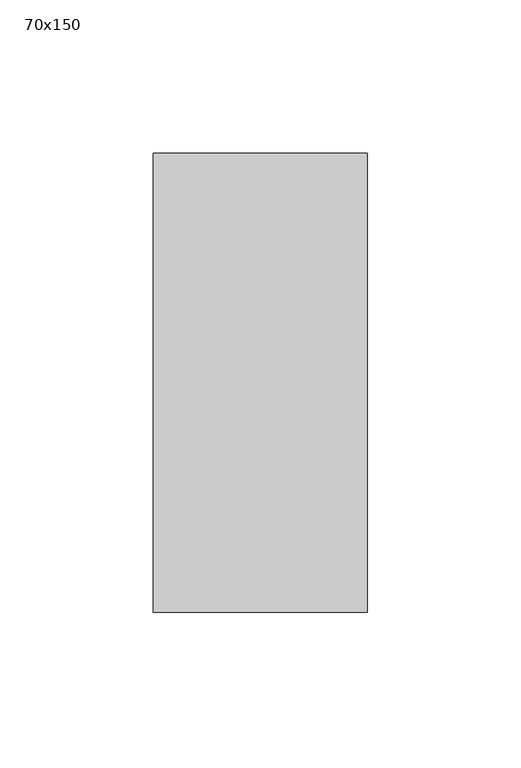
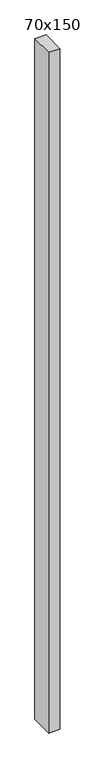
"""IFC4 building model written with IfcOpenShell, lengths in millimetres: member geometry, 長方形のマリオン : 70x150."""

from ifc_helpers import new_model, si_unit, frame, origin, place, context, project, spatial, polyline, outline, extrude, source, transform, mapped, element, save


def member_70x150_2e5d5b14(model_context):
    return source(origin(), model_context, "Body", "SweptSolid", [
        extrude(outline(polyline([(0.0, 75.0), (0.0, -75.0), (-70.0, -75.0), (-70.0, 75.0), (0.0, 75.0)])), frame((0.0, 0.0, -4528.3333333), z_axis=(0.0, 0.0, 1.0), x_axis=(1.0, 0.0, 0.0)), (0.0, 0.0, 1.0), 4528.3333333),
    ])


if __name__ == "__main__":
    model = new_model("IFC4")
    model_context = context("Model", 3, world=origin())
    ifc_project = project(units=[si_unit("LENGTHUNIT", "METRE", prefix="MILLI")], contexts=[model_context])
    site = spatial("IfcSite", under=ifc_project)
    building = spatial("IfcBuilding", under=site)
    placement = place(None, origin())
    member_70x150_shape = member_70x150_2e5d5b14(model_context)
    element("IfcMember", 1, ObjectType="長方形のマリオン : 70x150", at=placement, inside=building, context=model_context, shape_type="MappedRepresentation", body=[
        mapped(member_70x150_shape, transform((0.0, 0.0, 0.0), x_axis=(1.0, 0.0, 0.0), y_axis=(0.0, 1.0, 0.0), z_axis=(0.0, 0.0, 1.0))),
    ])
    save(model, "model.ifc")
